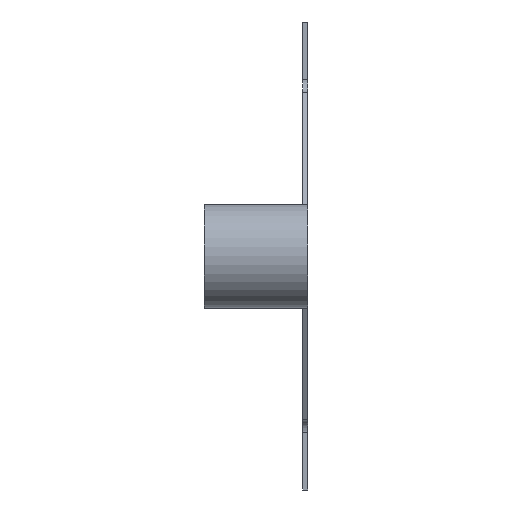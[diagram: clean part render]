
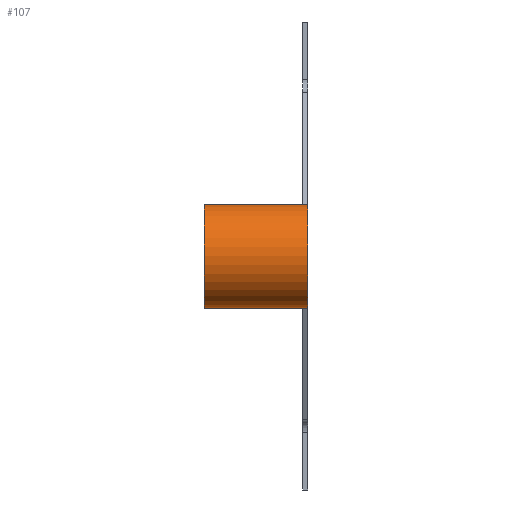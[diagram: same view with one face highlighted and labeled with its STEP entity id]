
A CAD part, left-side view. The second image highlights one B-rep face of the part: STEP entity #107.
In plain terms, the highlighted cylindrical face has radius 1 mm (diameter 2 mm), a partial arc.
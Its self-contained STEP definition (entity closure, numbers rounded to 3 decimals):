
#107 = ADVANCED_FACE ( 'NONE', ( #2695 ), #2260, .T. ) ;
#177 = VECTOR ( 'NONE', #475, 1000. ) ;
#209 = VERTEX_POINT ( 'NONE', #2202 ) ;
#260 = AXIS2_PLACEMENT_3D ( 'NONE', #3647, #283, #1670 ) ;
#283 = DIRECTION ( 'NONE',  ( 0., 1., 0. ) ) ;
#317 = ORIENTED_EDGE ( 'NONE', *, *, #523, .F. ) ;
#475 = DIRECTION ( 'NONE',  ( 0., -1., 0. ) ) ;
#509 = LINE ( 'NONE', #6016, #177 ) ;
#523 = EDGE_CURVE ( 'NONE', #3018, #562, #844, .T. ) ;
#562 = VERTEX_POINT ( 'NONE', #4079 ) ;
#829 = CARTESIAN_POINT ( 'NONE',  ( -12.986, 2., -1.023 ) ) ;
#844 = LINE ( 'NONE', #3390, #895 ) ;
#871 = EDGE_LOOP ( 'NONE', ( #317, #3529, #4436, #3070 ) ) ;
#895 = VECTOR ( 'NONE', #5829, 1000. ) ;
#1670 = DIRECTION ( 'NONE',  ( 0., 0., -1. ) ) ;
#1727 = DIRECTION ( 'NONE',  ( 0., 1., 0. ) ) ;
#1787 = DIRECTION ( 'NONE',  ( 0., 1., 0. ) ) ;
#1883 = CARTESIAN_POINT ( 'NONE',  ( -12.986, 0., -0.023 ) ) ;
#2202 = CARTESIAN_POINT ( 'NONE',  ( -12.986, 0., -1.023 ) ) ;
#2226 = EDGE_CURVE ( 'NONE', #2904, #209, #509, .T. ) ;
#2260 = CYLINDRICAL_SURFACE ( 'NONE', #260, 1. ) ;
#2356 = EDGE_CURVE ( 'NONE', #2904, #3018, #3230, .T. ) ;
#2695 = FACE_OUTER_BOUND ( 'NONE', #871, .T. ) ;
#2904 = VERTEX_POINT ( 'NONE', #829 ) ;
#2923 = EDGE_CURVE ( 'NONE', #209, #562, #6067, .T. ) ;
#3018 = VERTEX_POINT ( 'NONE', #6120 ) ;
#3070 = ORIENTED_EDGE ( 'NONE', *, *, #2923, .T. ) ;
#3230 = CIRCLE ( 'NONE', #4066, 1. ) ;
#3235 = AXIS2_PLACEMENT_3D ( 'NONE', #1883, #1787, #5313 ) ;
#3390 = CARTESIAN_POINT ( 'NONE',  ( -12.986, 2., 0.977 ) ) ;
#3529 = ORIENTED_EDGE ( 'NONE', *, *, #2356, .F. ) ;
#3647 = CARTESIAN_POINT ( 'NONE',  ( -12.986, 2., -0.023 ) ) ;
#4066 = AXIS2_PLACEMENT_3D ( 'NONE', #4728, #1727, #5227 ) ;
#4079 = CARTESIAN_POINT ( 'NONE',  ( -12.986, 0., 0.977 ) ) ;
#4436 = ORIENTED_EDGE ( 'NONE', *, *, #2226, .T. ) ;
#4728 = CARTESIAN_POINT ( 'NONE',  ( -12.986, 2., -0.023 ) ) ;
#5227 = DIRECTION ( 'NONE',  ( 0., 0., 1. ) ) ;
#5313 = DIRECTION ( 'NONE',  ( 0., 0., 1. ) ) ;
#5829 = DIRECTION ( 'NONE',  ( 0., -1., 0. ) ) ;
#6016 = CARTESIAN_POINT ( 'NONE',  ( -12.986, 2., -1.023 ) ) ;
#6067 = CIRCLE ( 'NONE', #3235, 1. ) ;
#6120 = CARTESIAN_POINT ( 'NONE',  ( -12.986, 2., 0.977 ) ) ;
